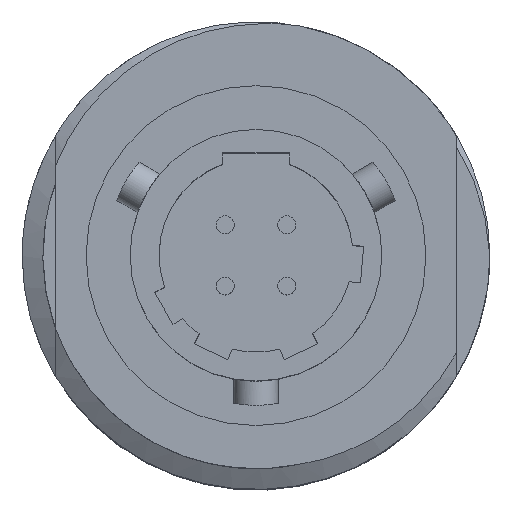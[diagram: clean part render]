
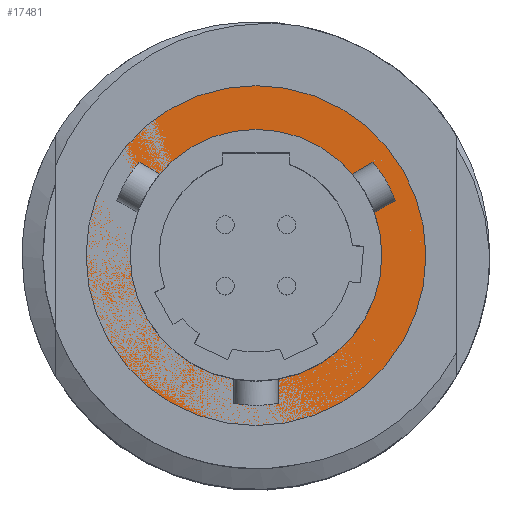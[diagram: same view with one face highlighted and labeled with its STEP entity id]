
A CAD part, top view. The second image highlights one B-rep face of the part: STEP entity #17481.
In plain terms, the highlighted planar face has unit normal (0, 0, 1) as drawn and (0, 1, 0) by its records, which use the part's own axes.
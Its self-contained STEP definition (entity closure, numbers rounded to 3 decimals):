
#15255 = CARTESIAN_POINT ( 'NONE',  ( 0., 0., 8.077 ) ) ;
#15256 = DIRECTION ( 'NONE',  ( 0., 0., 1. ) ) ;
#15257 = DIRECTION ( 'NONE',  ( 0., 1., 0. ) ) ;
#15258 = CARTESIAN_POINT ( 'NONE',  ( 0., 0., 0. ) ) ;
#15259 = AXIS2_PLACEMENT_3D ( 'NONE', #15258, #15257, #15256 ) ;
#15260 = CIRCLE ( 'NONE', #15259, 8.077 ) ;
#15354 = CARTESIAN_POINT ( 'NONE',  ( 0., 0., -5.982 ) ) ;
#15355 = DIRECTION ( 'NONE',  ( 0., 0., 1. ) ) ;
#15356 = DIRECTION ( 'NONE',  ( 0., 1., 0. ) ) ;
#15357 = CARTESIAN_POINT ( 'NONE',  ( 0., 0., 0. ) ) ;
#15358 = AXIS2_PLACEMENT_3D ( 'NONE', #15357, #15356, #15355 ) ;
#15359 = CIRCLE ( 'NONE', #15358, 5.982 ) ;
#15468 = CARTESIAN_POINT ( 'NONE',  ( 0., 0., -8.077 ) ) ;
#15480 = CARTESIAN_POINT ( 'NONE',  ( 0., 0., 5.982 ) ) ;
#15818 = DIRECTION ( 'NONE',  ( 0., 0., 1. ) ) ;
#15819 = DIRECTION ( 'NONE',  ( 0., 1., 0. ) ) ;
#15820 = CARTESIAN_POINT ( 'NONE',  ( 0., 0., 0. ) ) ;
#15821 = AXIS2_PLACEMENT_3D ( 'NONE', #15820, #15819, #15818 ) ;
#15822 = CIRCLE ( 'NONE', #15821, 5.982 ) ;
#15934 = FACE_BOUND ( 'NONE', #17485, .T. ) ;
#15935 = FACE_OUTER_BOUND ( 'NONE', #17482, .T. ) ;
#15936 = DIRECTION ( 'NONE',  ( 0., 0., 1. ) ) ;
#15937 = DIRECTION ( 'NONE',  ( 0., 1., 0. ) ) ;
#15938 = CARTESIAN_POINT ( 'NONE',  ( 0., 0., 0. ) ) ;
#15939 = AXIS2_PLACEMENT_3D ( 'NONE', #15938, #15937, #15936 ) ;
#15945 = CIRCLE ( 'NONE', #15939, 8.077 ) ;
#15996 = DIRECTION ( 'NONE',  ( 0., 0., 1. ) ) ;
#15997 = DIRECTION ( 'NONE',  ( 0., 1., 0. ) ) ;
#15998 = CARTESIAN_POINT ( 'NONE',  ( 0., 0., 0. ) ) ;
#15999 = AXIS2_PLACEMENT_3D ( 'NONE', #15998, #15997, #15996 ) ;
#16000 = PLANE ( 'NONE',  #15999 ) ;
#17095 = EDGE_CURVE ( 'NONE', #17096, #17177, #15260, .T. ) ;
#17096 = VERTEX_POINT ( 'NONE', #15255 ) ;
#17145 = EDGE_CURVE ( 'NONE', #17171, #17146, #15359, .T. ) ;
#17146 = VERTEX_POINT ( 'NONE', #15354 ) ;
#17171 = VERTEX_POINT ( 'NONE', #15480 ) ;
#17177 = VERTEX_POINT ( 'NONE', #15468 ) ;
#17386 = EDGE_CURVE ( 'NONE', #17146, #17171, #15822, .T. ) ;
#17480 = EDGE_CURVE ( 'NONE', #17177, #17096, #15945, .T. ) ;
#17481 = ADVANCED_FACE ( 'NONE', ( #15935, #15934 ), #16000, .T. ) ;
#17482 = EDGE_LOOP ( 'NONE', ( #17483, #17484 ) ) ;
#17483 = ORIENTED_EDGE ( 'NONE', *, *, #17095, .T. ) ;
#17484 = ORIENTED_EDGE ( 'NONE', *, *, #17480, .T. ) ;
#17485 = EDGE_LOOP ( 'NONE', ( #17486, #17487 ) ) ;
#17486 = ORIENTED_EDGE ( 'NONE', *, *, #17386, .F. ) ;
#17487 = ORIENTED_EDGE ( 'NONE', *, *, #17145, .F. ) ;
